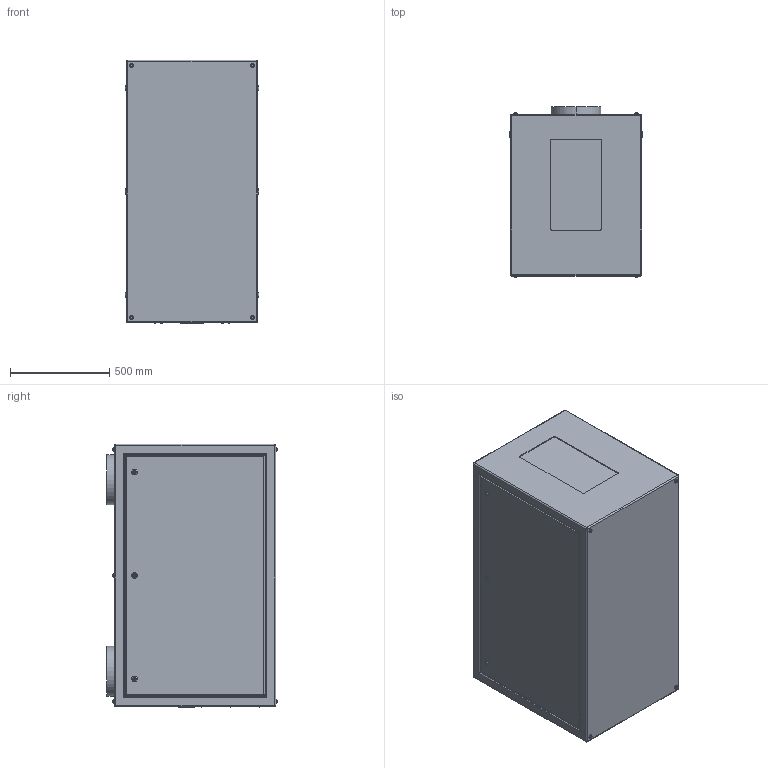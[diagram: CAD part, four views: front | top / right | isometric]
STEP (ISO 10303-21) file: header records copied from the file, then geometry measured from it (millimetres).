
FILE_DESCRIPTION (( 'STEP AP214' ), '1' );
FILE_NAME ('Tacit 56.305.P R08.STEP', '2022-09-11T22:36:45', ( '' ), ( '' ), 'SwSTEP 2.0', 'SolidWorks 2020', '' );
FILE_SCHEMA (( 'AUTOMOTIVE_DESIGN' ));
Length unit declared in the file: inch
Products named in the file (1): Tacit 56.305.P R08
Bounding box: 673.1 x 858.15 x 1325.88 mm (x, y, z)
Volume: 707601953.6 mm3; surface area: 5339234.5 mm2
Topology: 1 solids, 7 shells, 401 faces, 892 edges, 560 vertices
Faces by surface type: plane 177, cylinder 168, torus 48, sphere 8
Entity records: 15011 total; most frequent: CARTESIAN_POINT 2382, DIRECTION 1972, ORIENTED_EDGE 1768, EDGE_CURVE 884, AXIS2_PLACEMENT_3D 782, VERTEX_POINT 560, EDGE_LOOP 464, LINE 408
